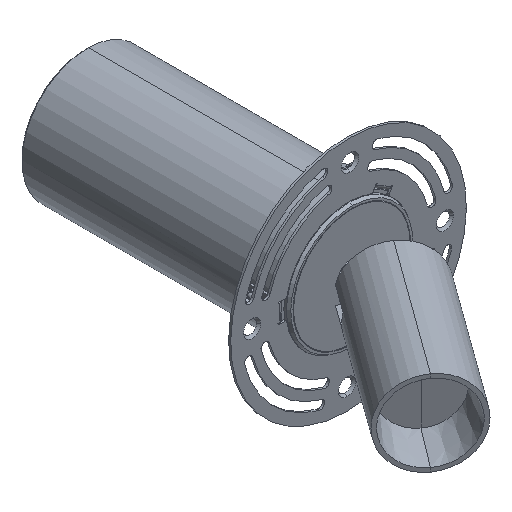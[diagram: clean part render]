
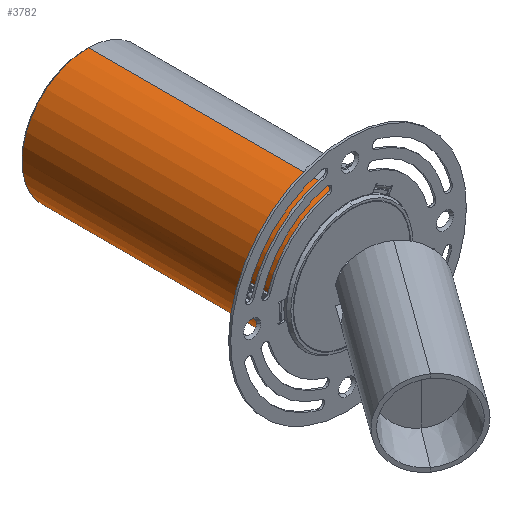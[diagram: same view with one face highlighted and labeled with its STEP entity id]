
A CAD part, isometric view. The second image highlights one B-rep face of the part: STEP entity #3782.
In plain terms, the highlighted cylindrical face has radius 30.5 mm (diameter 61 mm), a partial arc.
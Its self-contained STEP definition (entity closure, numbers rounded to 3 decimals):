
#332 = CARTESIAN_POINT ( 'NONE',  ( 30.476, 11.673, -1.217 ) ) ;
#438 = CARTESIAN_POINT ( 'NONE',  ( 30.499, 13.218, -0.326 ) ) ;
#673 = ORIENTED_EDGE ( 'NONE', *, *, #3408, .T. ) ;
#695 = VERTEX_POINT ( 'NONE', #8931 ) ;
#710 = VERTEX_POINT ( 'NONE', #5692 ) ;
#742 = EDGE_CURVE ( 'NONE', #9873, #695, #6304, .T. ) ;
#815 = AXIS2_PLACEMENT_3D ( 'NONE', #6006, #1342, #8526 ) ;
#1072 = CARTESIAN_POINT ( 'NONE',  ( 30.499, 10.782, 0.326 ) ) ;
#1074 = CARTESIAN_POINT ( 'NONE',  ( 30.476, 12.329, -1.217 ) ) ;
#1125 = CARTESIAN_POINT ( 'NONE',  ( 30.476, 12.328, 1.217 ) ) ;
#1136 = CARTESIAN_POINT ( 'NONE',  ( 30.474, 12., 1.25 ) ) ;
#1228 = CARTESIAN_POINT ( 'NONE',  ( 30.475, 11.836, 1.242 ) ) ;
#1342 = DIRECTION ( 'NONE',  ( 0., -1., 0. ) ) ;
#1753 = VERTEX_POINT ( 'NONE', #4010 ) ;
#2011 = CARTESIAN_POINT ( 'NONE',  ( 30.494, 10.908, -0.629 ) ) ;
#2068 = LINE ( 'NONE', #8414, #5635 ) ;
#2089 = EDGE_LOOP ( 'NONE', ( #5631, #2461, #6370, #7838 ) ) ;
#2281 = DIRECTION ( 'NONE',  ( 0., 0., -1. ) ) ;
#2332 = DIRECTION ( 'NONE',  ( 0., -1., 0. ) ) ;
#2461 = ORIENTED_EDGE ( 'NONE', *, *, #6311, .T. ) ;
#2681 = CARTESIAN_POINT ( 'NONE',  ( 30.491, 11.001, -0.768 ) ) ;
#2742 = FACE_OUTER_BOUND ( 'NONE', #2089, .T. ) ;
#2787 = CARTESIAN_POINT ( 'NONE',  ( 30.474, 11.835, -1.25 ) ) ;
#2789 = CARTESIAN_POINT ( 'NONE',  ( 30.489, 12.942, -0.826 ) ) ;
#2836 = DIRECTION ( 'NONE',  ( 0., 0., -1. ) ) ;
#2837 = CARTESIAN_POINT ( 'NONE',  ( 30.5, 10.75, 0.163 ) ) ;
#3083 = CARTESIAN_POINT ( 'NONE',  ( 0., 0., 30.5 ) ) ;
#3238 = LINE ( 'NONE', #3083, #5994 ) ;
#3367 = AXIS2_PLACEMENT_3D ( 'NONE', #4399, #9957, #2836 ) ;
#3408 = EDGE_CURVE ( 'NONE', #695, #9873, #4142, .T. ) ;
#3437 = EDGE_CURVE ( 'NONE', #1753, #5539, #2068, .T. ) ;
#3462 = CARTESIAN_POINT ( 'NONE',  ( 30.494, 13.085, -0.625 ) ) ;
#3514 = CARTESIAN_POINT ( 'NONE',  ( 30.484, 12.768, 1. ) ) ;
#3568 = CARTESIAN_POINT ( 'NONE',  ( 30.474, 12., -1.25 ) ) ;
#3619 = CARTESIAN_POINT ( 'NONE',  ( 30.499, 13.217, 0.328 ) ) ;
#3782 = ADVANCED_FACE ( 'NONE', ( #9863, #2742 ), #9135, .T. ) ;
#4010 = CARTESIAN_POINT ( 'NONE',  ( 0., 120.9, -30.5 ) ) ;
#4049 = EDGE_CURVE ( 'NONE', #5539, #8345, #8303, .T. ) ;
#4142 = B_SPLINE_CURVE_WITH_KNOTS ( 'NONE', 3,
 ( #3568, #2787, #332, #5896, #9805, #2681, #2011, #5161, #5219, #2837, #1072, #8256, #9958, #9182, #8358, #8979, #7468, #1228, #5009, #5840 ),
 .UNSPECIFIED., .F., .F.,
 ( 4, 2, 2, 2, 2, 2, 2, 2, 2, 4 ),
 ( 0., 0., 0.001, 0.001, 0.002, 0.002, 0.003, 0.003, 0.004, 0.004 ),
 .UNSPECIFIED. ) ;
#4295 = CARTESIAN_POINT ( 'NONE',  ( 30.494, 13.092, 0.631 ) ) ;
#4399 = CARTESIAN_POINT ( 'NONE',  ( 0., 120.9, 0. ) ) ;
#4829 = CARTESIAN_POINT ( 'NONE',  ( 0., 0., 30.5 ) ) ;
#5009 = CARTESIAN_POINT ( 'NONE',  ( 30.474, 11.918, 1.25 ) ) ;
#5010 = CIRCLE ( 'NONE', #3367, 30.5 ) ;
#5062 = CARTESIAN_POINT ( 'NONE',  ( 0., 0., -30.5 ) ) ;
#5066 = CARTESIAN_POINT ( 'NONE',  ( 30.474, 12., 1.25 ) ) ;
#5161 = CARTESIAN_POINT ( 'NONE',  ( 30.499, 10.783, -0.328 ) ) ;
#5219 = CARTESIAN_POINT ( 'NONE',  ( 30.5, 10.75, -0.164 ) ) ;
#5221 = CARTESIAN_POINT ( 'NONE',  ( 30.474, 12.163, 1.25 ) ) ;
#5463 = AXIS2_PLACEMENT_3D ( 'NONE', #8683, #2332, #2281 ) ;
#5539 = VERTEX_POINT ( 'NONE', #5062 ) ;
#5631 = ORIENTED_EDGE ( 'NONE', *, *, #9120, .T. ) ;
#5635 = VECTOR ( 'NONE', #8211, 1000. ) ;
#5692 = CARTESIAN_POINT ( 'NONE',  ( 0., 120.9, 30.5 ) ) ;
#5840 = CARTESIAN_POINT ( 'NONE',  ( 30.474, 12., 1.25 ) ) ;
#5896 = CARTESIAN_POINT ( 'NONE',  ( 30.481, 11.37, -1.092 ) ) ;
#5994 = VECTOR ( 'NONE', #7815, 1000. ) ;
#6006 = CARTESIAN_POINT ( 'NONE',  ( 0., 0., 0. ) ) ;
#6304 = B_SPLINE_CURVE_WITH_KNOTS ( 'NONE', 3,
 ( #5066, #5221, #1125, #8361, #3514, #6838, #4295, #3619, #6679, #7471, #438, #6627, #3462, #9859, #2789, #9960, #9080, #1074, #7419, #9807 ),
 .UNSPECIFIED., .F., .F.,
 ( 4, 2, 2, 2, 2, 2, 2, 2, 2, 4 ),
 ( 0.004, 0.004, 0.005, 0.005, 0.006, 0.006, 0.007, 0.007, 0.007, 0.008 ),
 .UNSPECIFIED. ) ;
#6311 = EDGE_CURVE ( 'NONE', #710, #8345, #3238, .T. ) ;
#6370 = ORIENTED_EDGE ( 'NONE', *, *, #4049, .F. ) ;
#6627 = CARTESIAN_POINT ( 'NONE',  ( 30.495, 13.124, -0.554 ) ) ;
#6679 = CARTESIAN_POINT ( 'NONE',  ( 30.5, 13.25, 0.166 ) ) ;
#6838 = CARTESIAN_POINT ( 'NONE',  ( 30.491, 12.999, 0.769 ) ) ;
#7419 = CARTESIAN_POINT ( 'NONE',  ( 30.474, 12.165, -1.25 ) ) ;
#7468 = CARTESIAN_POINT ( 'NONE',  ( 30.476, 11.675, 1.21 ) ) ;
#7471 = CARTESIAN_POINT ( 'NONE',  ( 30.5, 13.25, -0.164 ) ) ;
#7815 = DIRECTION ( 'NONE',  ( 0., -1., 0. ) ) ;
#7838 = ORIENTED_EDGE ( 'NONE', *, *, #3437, .F. ) ;
#8011 = EDGE_LOOP ( 'NONE', ( #673, #9685 ) ) ;
#8211 = DIRECTION ( 'NONE',  ( 0., -1., 0. ) ) ;
#8256 = CARTESIAN_POINT ( 'NONE',  ( 30.494, 10.908, 0.629 ) ) ;
#8303 = CIRCLE ( 'NONE', #5463, 30.5 ) ;
#8345 = VERTEX_POINT ( 'NONE', #4829 ) ;
#8358 = CARTESIAN_POINT ( 'NONE',  ( 30.481, 11.37, 1.092 ) ) ;
#8361 = CARTESIAN_POINT ( 'NONE',  ( 30.48, 12.628, 1.093 ) ) ;
#8414 = CARTESIAN_POINT ( 'NONE',  ( 0., 0., -30.5 ) ) ;
#8526 = DIRECTION ( 'NONE',  ( 0., 0., -1. ) ) ;
#8683 = CARTESIAN_POINT ( 'NONE',  ( 0., 0., 0. ) ) ;
#8931 = CARTESIAN_POINT ( 'NONE',  ( 30.474, 12., -1.25 ) ) ;
#8979 = CARTESIAN_POINT ( 'NONE',  ( 30.477, 11.597, 1.186 ) ) ;
#9080 = CARTESIAN_POINT ( 'NONE',  ( 30.481, 12.63, -1.092 ) ) ;
#9120 = EDGE_CURVE ( 'NONE', #1753, #710, #5010, .T. ) ;
#9135 = CYLINDRICAL_SURFACE ( 'NONE', #815, 30.5 ) ;
#9182 = CARTESIAN_POINT ( 'NONE',  ( 30.484, 11.233, 1. ) ) ;
#9685 = ORIENTED_EDGE ( 'NONE', *, *, #742, .T. ) ;
#9805 = CARTESIAN_POINT ( 'NONE',  ( 30.484, 11.231, -0.999 ) ) ;
#9807 = CARTESIAN_POINT ( 'NONE',  ( 30.474, 12., -1.25 ) ) ;
#9859 = CARTESIAN_POINT ( 'NONE',  ( 30.491, 12.995, -0.761 ) ) ;
#9863 = FACE_BOUND ( 'NONE', #8011, .T. ) ;
#9873 = VERTEX_POINT ( 'NONE', #1136 ) ;
#9957 = DIRECTION ( 'NONE',  ( 0., -1., 0. ) ) ;
#9958 = CARTESIAN_POINT ( 'NONE',  ( 30.491, 10.999, 0.767 ) ) ;
#9960 = CARTESIAN_POINT ( 'NONE',  ( 30.484, 12.769, -0.999 ) ) ;
